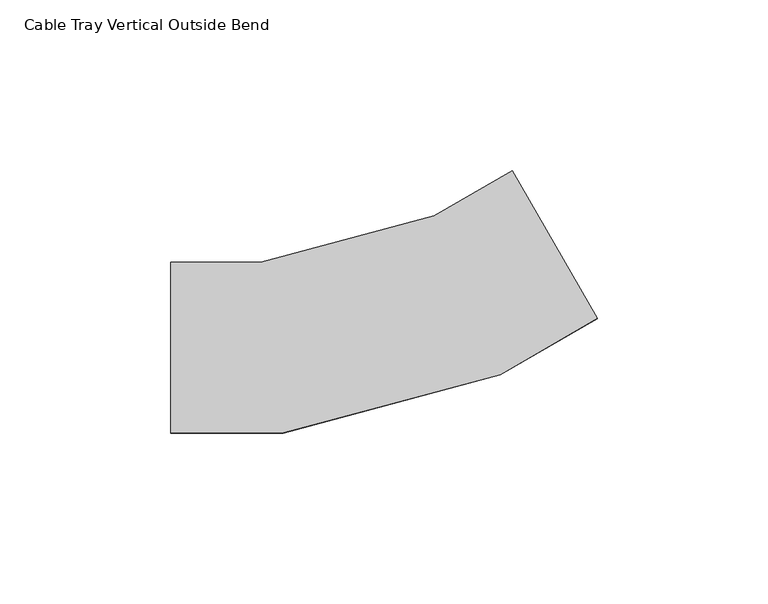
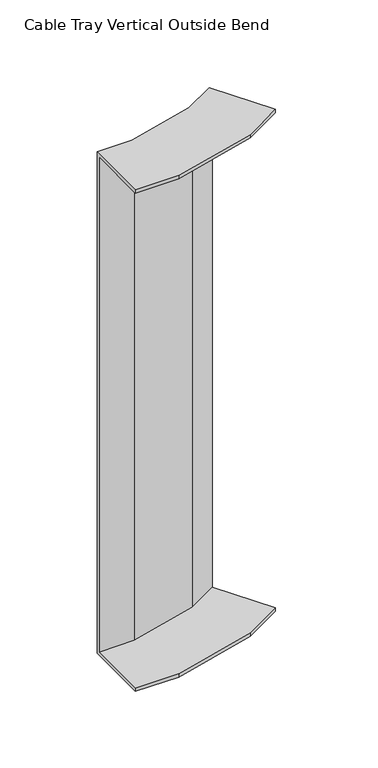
"""IFC4 building model written with IfcOpenShell, lengths in millimetres: cable carrier fitting geometry, Cable Tray Vertical Outside Bend : ELEC_SUB_CT_N2402."""

from ifc_helpers import new_model, si_unit, origin, place, context, project, spatial, faceted_brep, source, transform, mapped, element, save


def cable_tray_vertical_outside_bend_dc64f624(model_context):
    return source(origin(), model_context, "Body", "Brep", [
        faceted_brep([(-60.2885683, -25.0, 200.0), (-60.2885683, 25.0, 200.0), (-60.2885683, 25.0, -200.0), (-60.2885683, -25.0, -200.0), (-60.2885683, -25.0, -197.46), (-60.2885683, 22.46, -197.46), (-60.2885683, 22.46, 197.46), (-60.2885683, -25.0, 197.46), (64.7114317, 8.4936491, 200.0), (64.7114317, 8.4936491, 197.46), (40.9814317, 49.5952147, 197.46), (40.9814317, 49.5952147, -197.46), (64.7114317, 8.4936491, -197.46), (64.7114317, 8.4936491, -200.0), (39.7114317, 51.7949192, -200.0), (39.7114317, 51.7949192, 200.0), (-27.3754439, -25.0, 200.0), (36.2078299, -7.9629131, 200.0), (16.9085502, 38.6296695, 200.0), (-33.9580688, 25.0, 200.0), (-33.9580688, 25.0, -200.0), (16.9085502, 38.6296695, -200.0), (36.2078299, -7.9629131, -200.0), (-27.3754439, -25.0, -200.0), (-27.3754439, -25.0, -197.46), (36.2078299, -7.9629131, -197.46), (17.8889536, 36.2627663, -197.46), (-33.6236714, 22.46, -197.46), (-33.6236714, 22.46, 197.46), (17.8889536, 36.2627663, 197.46), (36.2078299, -7.9629131, 197.46), (-27.3754439, -25.0, 197.46)], [[[0, 1, 2, 3, 4, 5, 6, 7]], [[8, 9, 10, 11, 12, 13, 14, 15]], [[1, 0, 16, 17, 8, 15, 18, 19]], [[2, 1, 19, 20]], [[3, 2, 20, 21, 14, 13, 22, 23]], [[4, 3, 23, 24]], [[5, 4, 24, 25, 12, 11, 26, 27]], [[6, 5, 27, 28]], [[7, 6, 28, 29, 10, 9, 30, 31]], [[0, 7, 31, 16]], [[20, 19, 18, 21]], [[24, 23, 22, 25]], [[28, 27, 26, 29]], [[16, 31, 30, 17]], [[21, 18, 15, 14]], [[25, 22, 13, 12]], [[29, 26, 11, 10]], [[17, 30, 9, 8]]]),
    ])


if __name__ == "__main__":
    model = new_model("IFC4")
    model_context = context("Model", 3, world=origin())
    ifc_project = project(units=[si_unit("LENGTHUNIT", "METRE", prefix="MILLI")], contexts=[model_context])
    site = spatial("IfcSite", under=ifc_project)
    building = spatial("IfcBuilding", under=site)
    placement = place(None, origin())
    cable_tray_vertical_outside_bend_shape = cable_tray_vertical_outside_bend_dc64f624(model_context)
    element("IfcCableCarrierFitting", 1, ObjectType="Cable Tray Vertical Outside Bend : ELEC_SUB_CT_N2402", at=placement, inside=building, context=model_context, shape_type="MappedRepresentation", body=[
        mapped(cable_tray_vertical_outside_bend_shape, transform((0.0, 0.0, 0.0), x_axis=(1.0, 0.0, 0.0), y_axis=(0.0, 1.0, 0.0), z_axis=(0.0, 0.0, 1.0))),
    ])
    save(model, "model.ifc")
